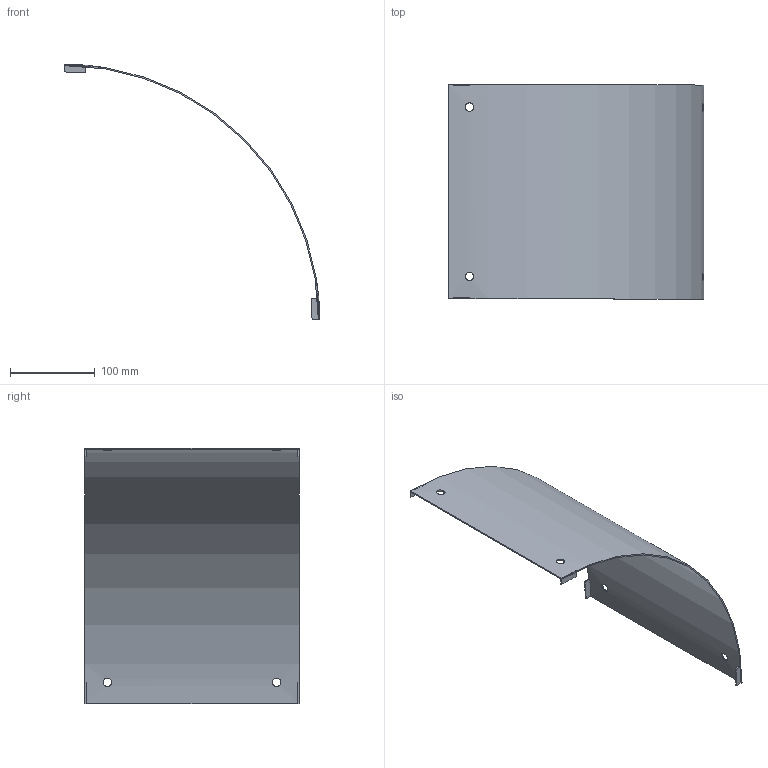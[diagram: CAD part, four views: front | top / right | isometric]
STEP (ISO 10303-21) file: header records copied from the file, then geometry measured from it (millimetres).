
FILE_DESCRIPTION(/* description */ ('','CAx-IF Rec.Pracs.---Representation and Presentation of Product Manufacturing Information (PMI)---4.0---2014-10-13'),/* implementation_level */ '2;1');
FILE_NAME(/* name */ 'Eurostrut_EORC200-90-300_Cover Outside Riser 90 for Cable Ladder ECL.step',/* time_stamp */ '2026-09-10T12:22:50+02:00',/* author */ (''),/* organization */ (''),/* preprocessor_version */ 'ST-DEVELOPER v20.1',/* originating_system */ 'Autodesk Revit 2027 27.2.0.39',/* authorisation */ '');
FILE_SCHEMA (('AP242_MANAGED_MODEL_BASED_3D_ENGINEERING_MIM_LF { 1 0 10303 442 2 1 4 }'));
Length unit declared in the file: millimetre
Products named in the file (3): TopLevelAssembly; Sweep; Joined Solid Geometry
Assembly tree (2 placements, depth 2):
  TopLevelAssembly
    Sweep
    Joined Solid Geometry
Bounding box: 301.5 x 253 x 301.5 mm (x, y, z)
Volume: 179937.4 mm3; surface area: 242671.9 mm2
Topology: 5 solids, 5 shells, 38 faces, 84 edges, 56 vertices
Faces by surface type: plane 20, cylinder 18
Entity records: 1356 total; most frequent: CARTESIAN_POINT 459, DIRECTION 174, ORIENTED_EDGE 168, EDGE_CURVE 84, AXIS2_PLACEMENT_3D 63, VERTEX_POINT 56, LINE 48, VECTOR 48
